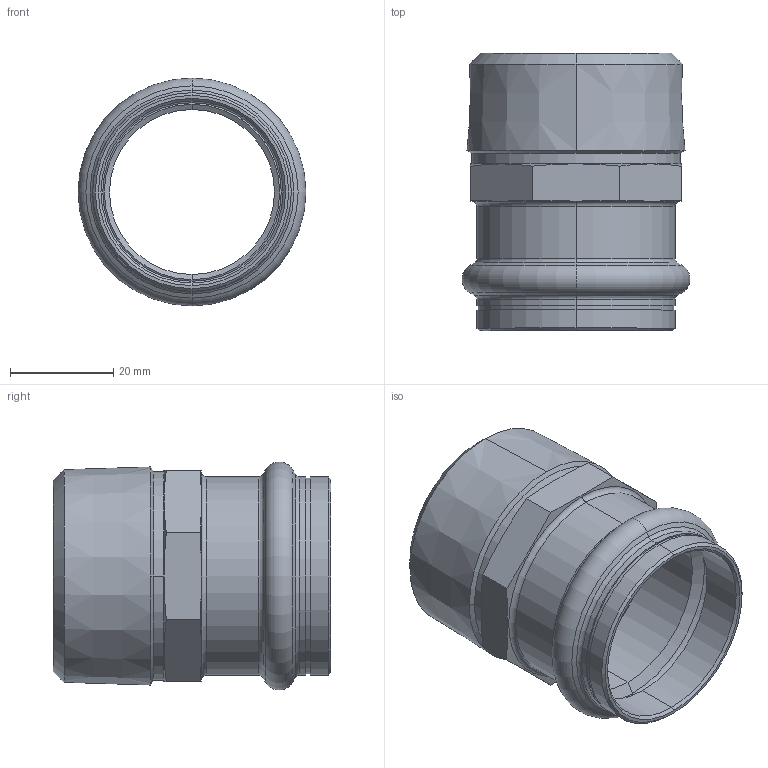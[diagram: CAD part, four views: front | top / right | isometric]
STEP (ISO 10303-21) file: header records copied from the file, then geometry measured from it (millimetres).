
FILE_DESCRIPTION (( 'STEP AP203' ), '1' );
FILE_NAME ('SP4243G Ø35 1 1-4.STEP', '2017-04-26T07:52:24', ( '' ), ( '' ), 'SwSTEP 2.0', 'SolidWorks 2016', '' );
FILE_SCHEMA (( 'CONFIG_CONTROL_DESIGN' ));
Length unit declared in the file: millimetre
Products named in the file (1): SP4243G Ø35 1 1-4
Bounding box: 44.2 x 53.8 x 44.2 mm (x, y, z)
Volume: 21192.9 mm3; surface area: 14380.3 mm2
Topology: 1 solids, 1 shells, 67 faces, 146 edges, 84 vertices
Faces by surface type: cone 26, cylinder 18, plane 13, torus 10
Entity records: 1939 total; most frequent: CARTESIAN_POINT 382, DIRECTION 336, ORIENTED_EDGE 292, EDGE_CURVE 146, AXIS2_PLACEMENT_3D 142, VERTEX_POINT 84, CIRCLE 74, EDGE_LOOP 72
